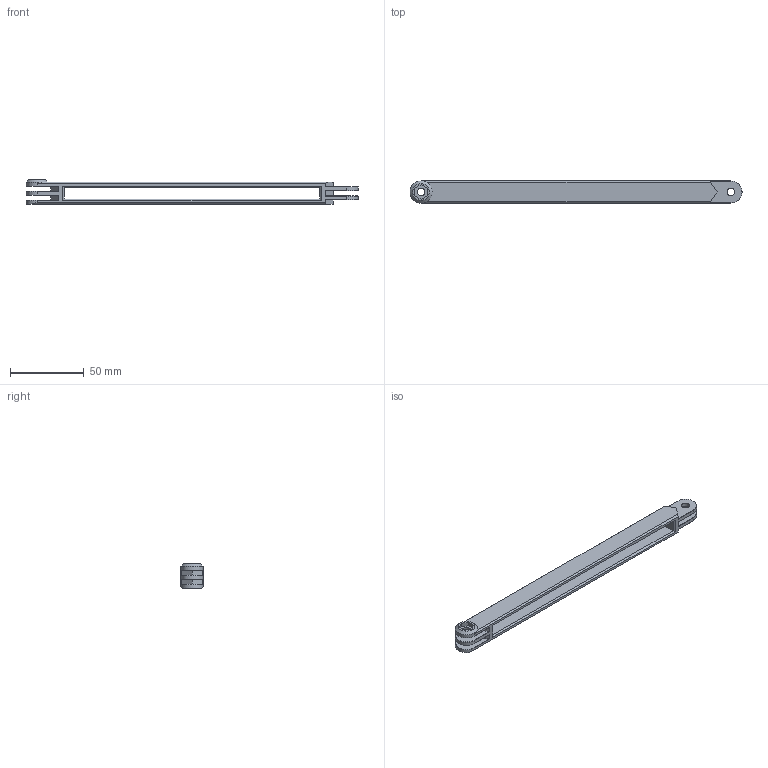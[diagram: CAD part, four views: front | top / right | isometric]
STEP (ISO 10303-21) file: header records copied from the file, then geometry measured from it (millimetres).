
FILE_DESCRIPTION(/* description */ ('STEP AP214'),/* implementation_level */ '2;1');
FILE_NAME(/* name */ '60a142aa25d25912eeacad55',/* time_stamp */ '2021-05-16T16:05:00+00:00',/* author */ (''),/* organization */ (''),/* preprocessor_version */ 'ST-DEVELOPER v18.1',/* originating_system */ ' ',/* authorisation */ ' ');
FILE_SCHEMA (('AUTOMOTIVE_DESIGN {1 0 10303 214 3 1 1}'));
Length unit declared in the file: metre
Products named in the file (1): Arm Straight
Bounding box: 225 x 15 x 16.8 mm (x, y, z)
Volume: 24385.6 mm3; surface area: 16621.9 mm2
Topology: 1 solids, 1 shells, 92 faces, 246 edges, 157 vertices
Faces by surface type: plane 72, cylinder 10, cone 10
Full cylindrical faces by diameter (mm): 5.3 x5
Entity records: 2789 total; most frequent: CARTESIAN_POINT 484, ORIENTED_EDGE 468, DIRECTION 453, EDGE_CURVE 234, LINE 197, VECTOR 197, VERTEX_POINT 151, AXIS2_PLACEMENT_3D 128
